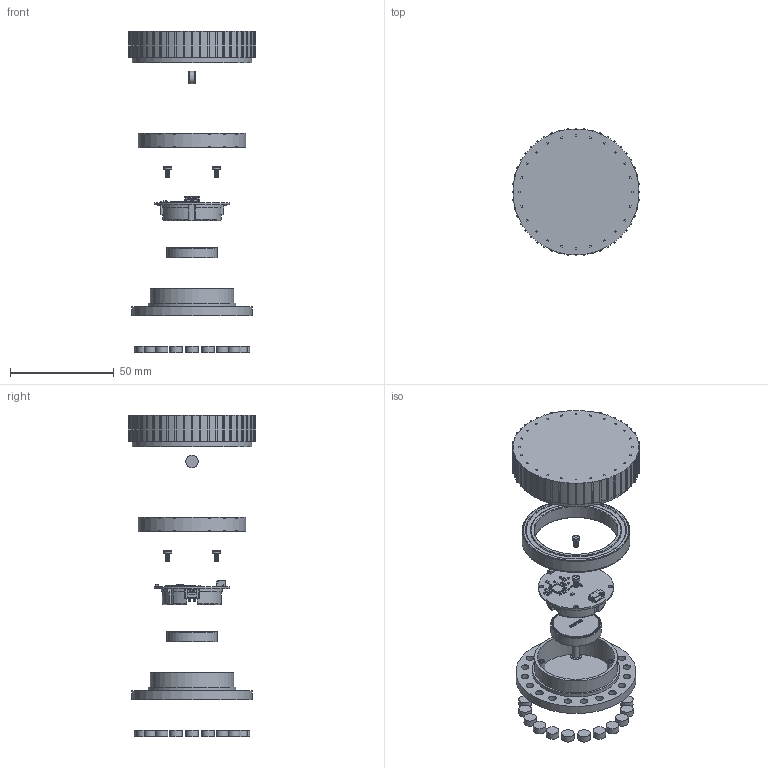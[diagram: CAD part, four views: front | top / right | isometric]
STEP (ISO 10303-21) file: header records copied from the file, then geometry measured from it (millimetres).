
FILE_DESCRIPTION(('Open CASCADE Model'),'2;1');
FILE_NAME('Open CASCADE Shape Model','2026-11-18T14:54:33',('Author'),( 'Open CASCADE'),'Open CASCADE STEP processor 7.9','Open CASCADE 7.9' ,'Unknown');
FILE_SCHEMA(('AUTOMOTIVE_DESIGN { 1 0 10303 214 1 1 1 1 }'));
Length unit declared in the file: millimetre
Products named in the file (55): V3_Exploded; PCB; Cell; PCB_Fasteners; Electronic_U1; Electronic_BT1; Electronic_C4; Electronic_C9; Electronic_C15; Electronic_C5; Electronic_C8; Electronic_C10; Electronic_C16; Electronic_C18; Electronic_J_DEBUG; Electronic_R4; Electronic_U2; Electronic_C6; Electronic_R1; Electronic_R2; Electronic_R3; Electronic_X1; Electronic_C1; Electronic_C2; Electronic_X2; Electronic_C11; Electronic_C12; Electronic_L1; Electronic_L2; Electronic_C3; Electronic_ANT1; Bearing_6808; Magnet; Cap_circular; Base_V3_Discs; Attachment_Disc_01; Attachment_Disc_02; Attachment_Disc_03; Attachment_Disc_04; Attachment_Disc_05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
Assembly tree (54 placements, depth 2):
  V3_Exploded
    PCB
    Cell
    PCB_Fasteners
    Electronic_U1
    Electronic_BT1
    Electronic_C4
    Electronic_C9
    Electronic_C15
    Electronic_C5
    Electronic_C8
    Electronic_C10
    Electronic_C16
    Electronic_C18
    Electronic_J_DEBUG
    Electronic_R4
    Electronic_U2
    Electronic_C6
    Electronic_R1
    Electronic_R2
    Electronic_R3
    Electronic_X1
    Electronic_C1
    Electronic_C2
    Electronic_X2
    Electronic_C11
    Electronic_C12
    Electronic_L1
    Electronic_L2
    Electronic_C3
    Electronic_ANT1
    Bearing_6808
    Magnet
    Cap_circular
    Base_V3_Discs
    Attachment_Disc_01
    Attachment_Disc_02
    Attachment_Disc_03
    Attachment_Disc_04
    Attachment_Disc_05
    Attachment_Disc_06
    Attachment_Disc_07
    Attachment_Disc_08
    Attachment_Disc_09
    Attachment_Disc_10
    Attachment_Disc_11
    Attachment_Disc_12
    Attachment_Disc_13
    Attachment_Disc_14
    Attachment_Disc_15
    Attachment_Disc_16
    Attachment_Disc_17
    Attachment_Disc_18
    Attachment_Disc_19
    Attachment_Disc_20
Bounding box: 61.6 x 61.6 x 154.7 mm (x, y, z)
Volume: 33309.8 mm3; surface area: 42592.6 mm2
Topology: 254 solids, 254 shells, 11447 faces, 30164 edges, 19722 vertices
Faces by surface type: plane 6663, bspline 2964, cylinder 1433, sphere 211, extrusion 76, cone 52, torus 48
Full cylindrical faces by diameter (mm): 0.36 x21, 1.6 x4, 1.96 x18, 2.2 x4, 3.2 x4, 3.8 x2, 6 x21, 6.4 x20, 22.2 x2, 23.2 x1, 23.3 x1, 24.5 x1, 36.5 x1, 37.3 x1, 40 x1, 40.05 x1, 42 x1, 43.9 x2, 43.96 x2, 44.2 x2, 48.04 x2, 48.1 x2, 50 x1, 50.7 x4, 51.4 x2, 51.46 x2, 51.95 x1, 52 x1, 57.6 x1, 58 x1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
Entity records: 835795 total; most frequent: CARTESIAN_POINT 276058, DIRECTION 86117, VECTOR 62455, LINE 62379, ORIENTED_EDGE 59906, PCURVE 59906, DEFINITIONAL_REPRESENTATION 59906, EDGE_CURVE 29953
